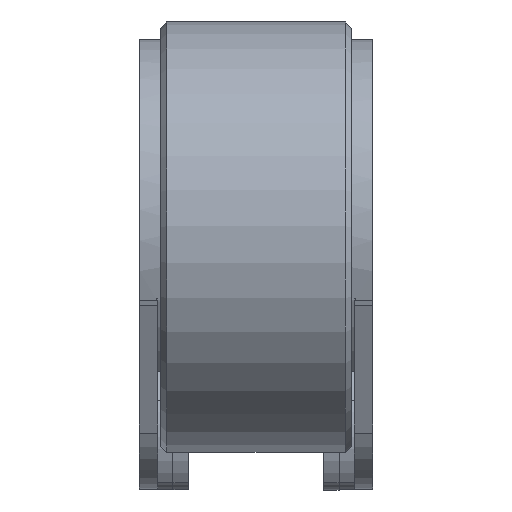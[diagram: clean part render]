
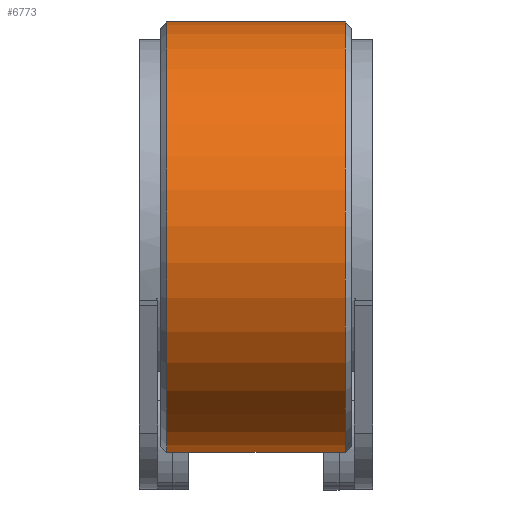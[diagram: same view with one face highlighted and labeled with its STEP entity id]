
A CAD part, left-side view. The second image highlights one B-rep face of the part: STEP entity #6773.
In plain terms, the highlighted cylindrical face has radius 70 mm (diameter 140 mm), a partial arc.
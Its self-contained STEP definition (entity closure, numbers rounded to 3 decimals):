
#389=FACE_OUTER_BOUND('',#780,.T.);
#780=EDGE_LOOP('',(#4475,#4476,#4477,#4478));
#1222=CIRCLE('',#7379,70.);
#1224=CIRCLE('',#7382,70.);
#1684=LINE('',#10526,#2221);
#1693=LINE('',#10554,#2230);
#2221=VECTOR('',#8271,10.);
#2230=VECTOR('',#8300,10.);
#2769=VERTEX_POINT('',#10518);
#2771=VERTEX_POINT('',#10524);
#2778=VERTEX_POINT('',#10546);
#2780=VERTEX_POINT('',#10552);
#3428=EDGE_CURVE('',#2769,#2771,#1684,.T.);
#3438=EDGE_CURVE('',#2778,#2769,#1222,.T.);
#3441=EDGE_CURVE('',#2780,#2771,#1224,.T.);
#3442=EDGE_CURVE('',#2778,#2780,#1693,.T.);
#4475=ORIENTED_EDGE('',*,*,#3428,.T.);
#4476=ORIENTED_EDGE('',*,*,#3441,.F.);
#4477=ORIENTED_EDGE('',*,*,#3442,.F.);
#4478=ORIENTED_EDGE('',*,*,#3438,.T.);
#6471=CYLINDRICAL_SURFACE('',#7381,70.);
#6773=ADVANCED_FACE('',(#389),#6471,.T.);
#7379=AXIS2_PLACEMENT_3D('',#10547,#8291,#8292);
#7381=AXIS2_PLACEMENT_3D('',#10551,#8296,#8297);
#7382=AXIS2_PLACEMENT_3D('',#10553,#8298,#8299);
#8271=DIRECTION('',(-1.,0.,0.));
#8291=DIRECTION('center_axis',(-1.,0.,0.));
#8292=DIRECTION('ref_axis',(0.,0.919,-0.394));
#8296=DIRECTION('center_axis',(-1.,0.,0.));
#8297=DIRECTION('ref_axis',(0.,0.919,-0.394));
#8298=DIRECTION('center_axis',(-1.,0.,0.));
#8299=DIRECTION('ref_axis',(0.,0.919,-0.394));
#8300=DIRECTION('',(-1.,0.,0.));
#10518=CARTESIAN_POINT('',(29.,-134.325,-17.39));
#10524=CARTESIAN_POINT('',(-29.,-134.325,-17.39));
#10526=CARTESIAN_POINT('',(29.,-134.325,-17.39));
#10546=CARTESIAN_POINT('',(29.,0.,-45.));
#10547=CARTESIAN_POINT('Origin',(29.,-70.,-45.));
#10551=CARTESIAN_POINT('Origin',(0.,-70.,
-45.));
#10552=CARTESIAN_POINT('',(-29.,0.,-45.));
#10553=CARTESIAN_POINT('Origin',(-29.,-70.,-45.));
#10554=CARTESIAN_POINT('',(29.,0.,-45.));
